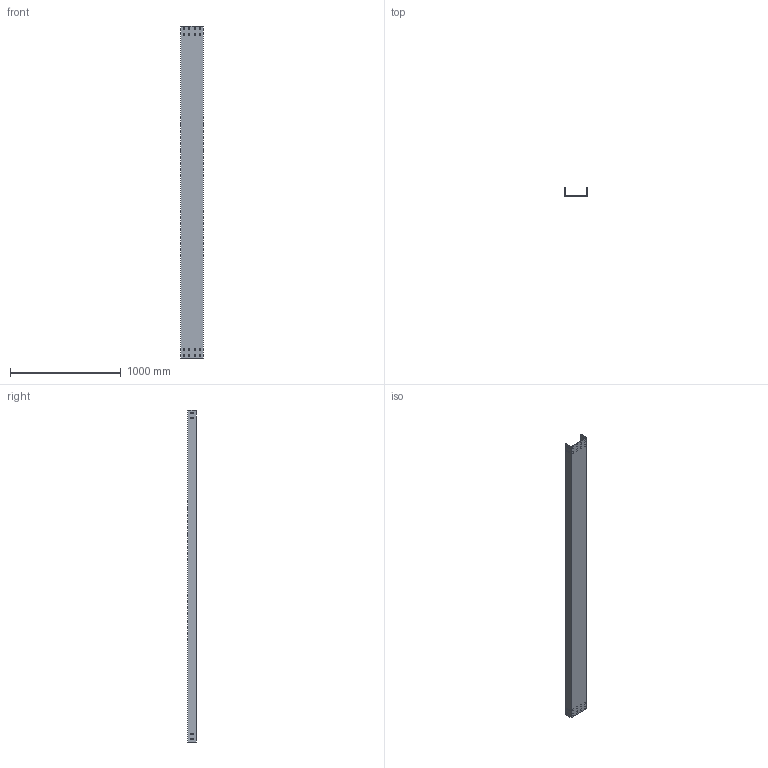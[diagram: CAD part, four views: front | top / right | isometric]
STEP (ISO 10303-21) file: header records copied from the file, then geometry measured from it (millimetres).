
FILE_DESCRIPTION (( 'STEP AP214' ), '1' );
FILE_NAME ('CF_207.step', '2025-07-16T09:05:40', ( '' ), ( '' ), 'SwSTEP 2.0', 'SolidWorks 2023', '' );
FILE_SCHEMA (( 'AUTOMOTIVE_DESIGN' ));
Length unit declared in the file: millimetre
Products named in the file (1): CF_207
Bounding box: 200 x 75 x 3000 mm (x, y, z)
Volume: 1556460 mm3; surface area: 2087433 mm2
Topology: 1 solids, 1 shells, 138 faces, 408 edges, 272 vertices
Faces by surface type: plane 138
Entity records: 4663 total; most frequent: CARTESIAN_POINT 819, ORIENTED_EDGE 816, DIRECTION 686, LINE 408, VECTOR 408, EDGE_CURVE 408, VERTEX_POINT 272, EDGE_LOOP 202
